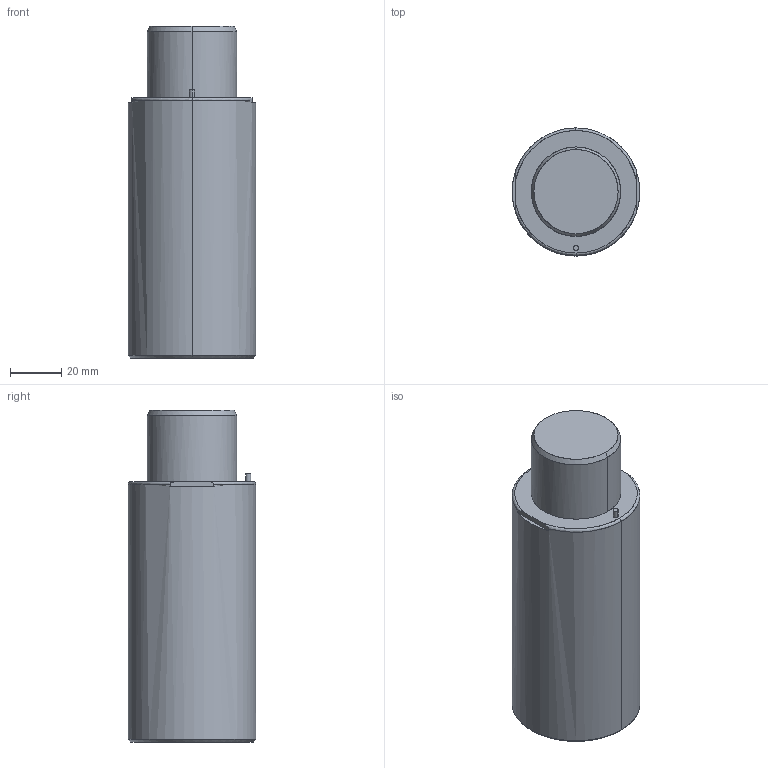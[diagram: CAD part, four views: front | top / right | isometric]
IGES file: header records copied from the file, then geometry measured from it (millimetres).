
Global section: file name: E:\UnigraphicsGraphicData\MISUMI_PRESS-PARTS\IGES\3d_gsx50-25_03971_r00.igs; native system: NX V5.0; preprocessor: UGS NX IGES V5.0; author: MISUMI; date: 20110105.160827; units: millimetre
Bounding box: 50 x 50 x 130 mm (x, y, z)
Surface area: 24496.5 mm2 (no closed solid volume)
Topology: 0 solids, 0 shells, 59 faces, 428 edges, 420 vertices
Faces by surface type: bspline 59
